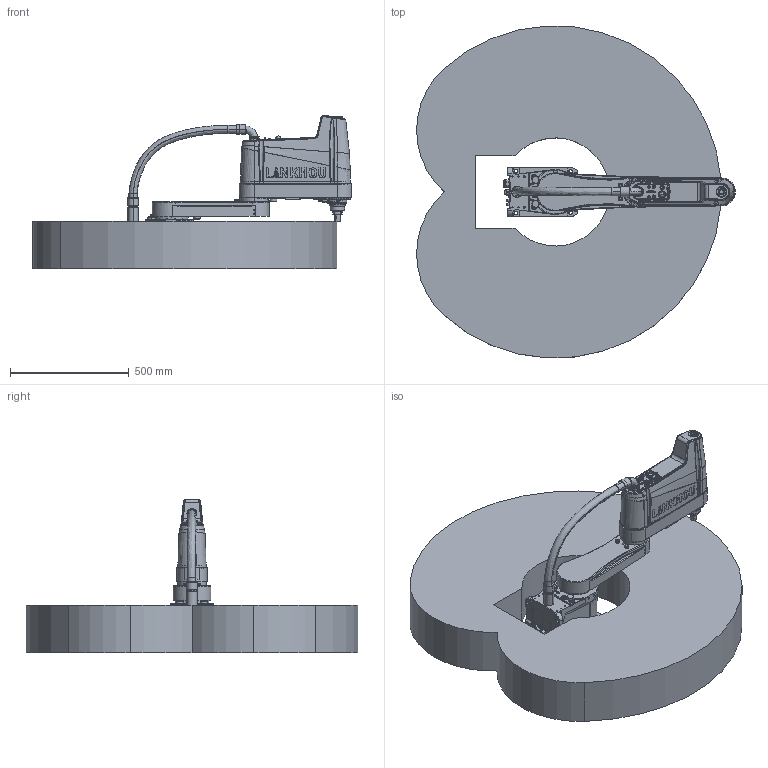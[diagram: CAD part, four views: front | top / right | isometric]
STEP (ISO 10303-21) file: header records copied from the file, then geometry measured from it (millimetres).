
FILE_DESCRIPTION (( 'STEP AP203' ), '1' );
FILE_NAME ('TM10A-R700ÓÐlogo2017.step', '2023-12-22T14:15:42', ( '' ), ( '' ), 'SwSTEP 2.0', 'SolidWorks 2017', '' );
FILE_SCHEMA (( 'CONFIG_CONTROL_DESIGN' ));
Length unit declared in the file: millimetre
Products named in the file (7): ｸｴｼ TM10A-R700ｴﾛ^TM10A-R700ﾓﾐlogo2017; ｸｴｼ TM10Aﾐ｡ｱﾛﾓﾐlogo^TM10A-R700ﾓﾐlogo2017; ¸´¼þ TM10A-R700¹Ü^TM10A-R700ÓÐlogo2017; ｸｴｼ TM10A-R800ﾔﾋｶｯｷｶﾎｧﾍｼ^TM10A-R700ﾓﾐlogo2017; ｸｴｼ 25ﾋｿｸﾋ440ﾊﾄ｣ﾍｼ^TM10A-R700ﾓﾐlogo2017; ｸｴｼ ｸｴｼ ｸｴｼ TM10A-ｵﾗﾗTM10A-R700ﾓﾐlogo2017; TM10A-R700ÓÐlogo2017
Assembly tree (6 placements, depth 2):
  TM10A-R700ÓÐlogo2017
    ｸｴｼ ｸｴｼ ｸｴｼ TM10A-ｵﾗﾗTM10A-R700ﾓﾐlogo2017
    ｸｴｼ TM10A-R700ｴﾛ^TM10A-R700ﾓﾐlogo2017
    ｸｴｼ TM10Aﾐ｡ｱﾛﾓﾐlogo^TM10A-R700ﾓﾐlogo2017
    ｸｴｼ 25ﾋｿｸﾋ440ﾊﾄ｣ﾍｼ^TM10A-R700ﾓﾐlogo2017
    ¸´¼þ TM10A-R700¹Ü^TM10A-R700ÓÐlogo2017
    ｸｴｼ TM10A-R800ﾔﾋｶｯｷｶﾎｧﾍｼ^TM10A-R700ﾓﾐlogo2017
Bounding box: 1343.2 x 1398.22 x 645.82 mm (x, y, z)
Volume: 268947141.1 mm3; surface area: 5663818.8 mm2
Topology: 42 solids, 43 shells, 3179 faces, 8074 edges, 5094 vertices
Faces by surface type: plane 962, bspline 837, cylinder 810, cone 569, torus 1
Entity records: 187703 total; most frequent: CARTESIAN_POINT 119543, ORIENTED_EDGE 15930, DIRECTION 11017, EDGE_CURVE 7965, VERTEX_POINT 5094, AXIS2_PLACEMENT_3D 4128, EDGE_LOOP 3529, ADVANCED_FACE 3179
